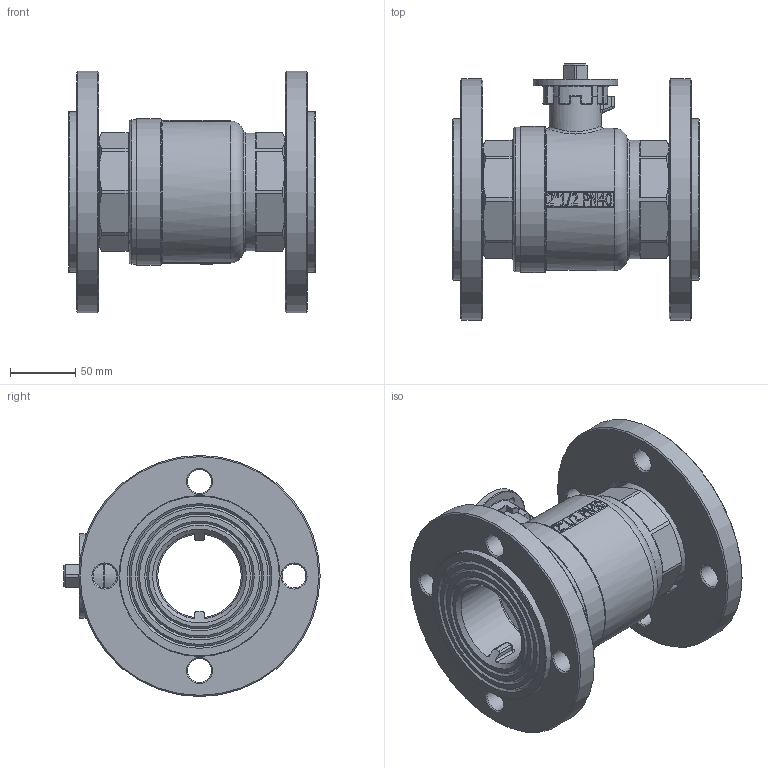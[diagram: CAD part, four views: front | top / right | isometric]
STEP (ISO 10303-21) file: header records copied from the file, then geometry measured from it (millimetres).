
FILE_DESCRIPTION(/* description */ ('Corpo femmina 2"1/2 mot.'),/* implementation_level */ '2;1');
FILE_NAME(/* name */ '\\dcidrosfer01\user$\ut4\Desktop\TICOM 14-11-2014\95 PM ISO E DN 65.stp',/* time_stamp */ '2014-11-14T11:46:54+01:00',/* author */ ('ut4'),/* organization */ (''),/* preprocessor_version */ 'ST-DEVELOPER v15.6',/* originating_system */ 'Autodesk Inventor 2015',/* authorisation */ '');
FILE_SCHEMA (('AUTOMOTIVE_DESIGN { 1 0 10303 214 3 1 1 }'));
Length unit declared in the file: millimetre
Products named in the file (17): Corpo femmina 212 mot.; Manicotto femmina 212 mot.; sfera 212; Sede 212; O-ring 17.86 x 2.62; Dischetto portamotore ISO 40; O-ring 71.44 x 3.53; Perno mot. 23 q14; Anello antigrip. perno mot. Ø23; Boccola antigrip. perno mot. Ø23; Ghiera ferma asta mot. 34-25; Dado bloccaggio piastra 34x6; Sede 212 mot.; Flangia PN16 DN65; Bocchettone DN65; O-ring 71.12 x 2.62; Valvola a sfera mot. 212 ART.95 F05 Q14
Assembly tree (21 placements, depth 2):
  Valvola a sfera mot. 212 ART.95 F05 Q14
    Corpo femmina 212 mot.
    Manicotto femmina 212 mot.
    sfera 212
    Sede 212
    O-ring 17.86 x 2.62  x2
    Dischetto portamotore ISO 40
    O-ring 71.44 x 3.53  x2
    Perno mot. 23 q14
    Anello antigrip. perno mot. Ø23
    Boccola antigrip. perno mot. Ø23
    Ghiera ferma asta mot. 34-25
    Dado bloccaggio piastra 34x6
    Sede 212 mot.
    Flangia PN16 DN65  x2
    Bocchettone DN65  x2
    O-ring 71.12 x 2.62  x2
Bounding box: 189.1 x 196.5 x 185 mm (x, y, z)
Volume: 1478376.3 mm3; surface area: 397726.5 mm2
Topology: 21 solids, 21 shells, 768 faces, 1834 edges, 1125 vertices
Faces by surface type: plane 273, cylinder 193, bspline 116, cone 97, torus 72, sphere 17
Full cylindrical faces by diameter (mm): 4.917 x1, 6.5 x4, 18 x10, 18.3 x1, 19.3 x2, 20 x1, 20.2 x1, 21 x2, 21.1 x1, 22.9 x3, 23 x3, 23.5 x1, 25 x2, 26 x1, 26.2 x1, 32 x1, 32.5 x1, 34 x2, 35 x1, 40 x1, 64 x3, 65 x3, 66 x2, 71 x1, 71.4 x1, 72.23 x1, 72.5 x1, 75.18 x2, 77.8 x1, 78 x3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
Entity records: 22093 total; most frequent: CARTESIAN_POINT 6986, ORIENTED_EDGE 2980, DIRECTION 2866, EDGE_CURVE 1490, AXIS2_PLACEMENT_3D 1129, VERTEX_POINT 1002, EDGE_LOOP 910, FACE_OUTER_BOUND 691
